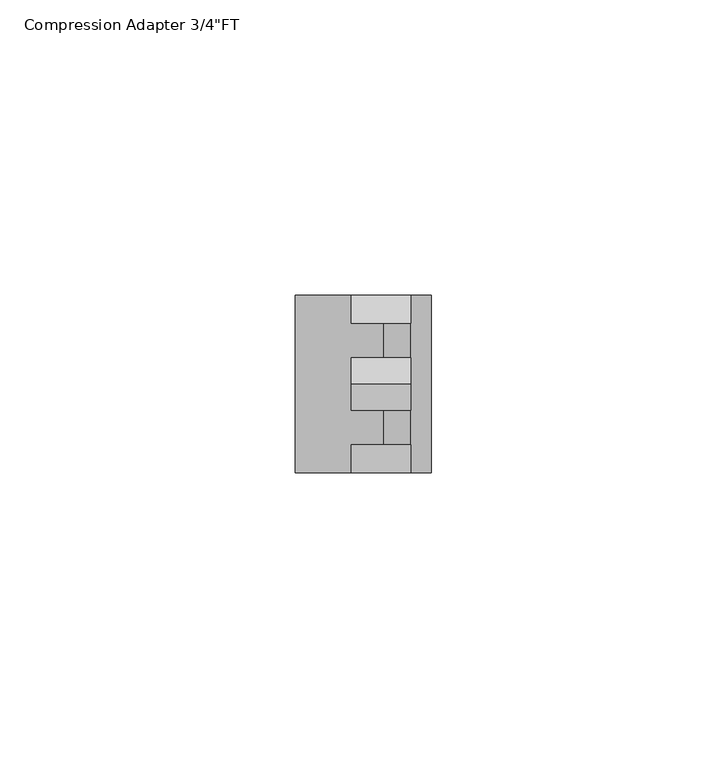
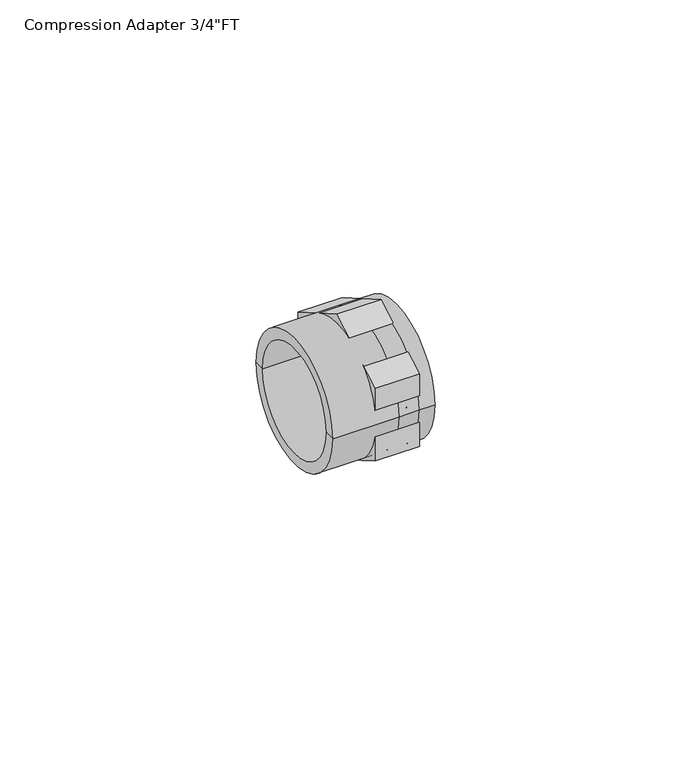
"""IFC4 building model written with IfcOpenShell, lengths in millimetres: pipe fitting geometry."""

from ifc_helpers import new_model, si_unit, point, frame, origin, origin_2d, place, context, project, spatial, polyline, circle_curve, trimmed, segment, composite_curve, outline, extrude, source, transform, mapped, element, save
from ifc_brep_helpers import plane_surface, cylinder_surface, revolved_surface, advanced_brep


def pipe_fitting_a4cde8ab(model_context):
    return source(origin(), model_context, "Body", "SolidModel", [
        advanced_brep(
        [(18.0, -12.5, 0.0), (18.0, 12.5, 0.0), (0.0, 12.5, 0.0), (0.0, -12.5, 0.0), (19.5, -10.0, 0.0), (19.5, 10.0, 0.0), (23.0, -10.0, 0.0), (23.0, 10.0, 0.0), (23.0, -15.0, 0.0), (23.0, 15.0, 0.0), (19.5, -15.0, 0.0), (19.5, 15.0, 0.0), (15.0, -15.0, 0.0), (15.0, 15.0, 0.0), (0.0, -15.0, 0.0), (0.0, 15.0, 0.0)],
        [
            (0, 1, circle_curve(frame((18.0, 0.0, 0.0), z_axis=(1.0, 0.0, 0.0), x_axis=(0.0, 1.0, 0.0)), 12.5)),
            (1, 2),
            (2, 3, circle_curve(frame((0.0, 0.0, 0.0), z_axis=(-1.0, 0.0, 0.0), x_axis=(0.0, 1.0, 0.0)), 12.5)),
            (3, 0),
            (1, 0, circle_curve(frame((18.0, 0.0, 0.0), z_axis=(1.0, 0.0, 0.0), x_axis=(0.0, 1.0, 0.0)), 12.5)),
            (3, 2, circle_curve(frame((0.0, 0.0, 0.0), z_axis=(-1.0, 0.0, 0.0), x_axis=(0.0, 1.0, 0.0)), 12.5)),
            (4, 5, circle_curve(frame((19.5, 0.0, 0.0), z_axis=(1.0, 0.0, 0.0), x_axis=(0.0, 1.0, 0.0)), 10.0)),
            (5, 1),
            (0, 4),
            (5, 4, circle_curve(frame((19.5, 0.0, 0.0), z_axis=(1.0, 0.0, 0.0), x_axis=(0.0, 1.0, 0.0)), 10.0)),
            (6, 7, circle_curve(frame((23.0, 0.0, 0.0), z_axis=(1.0, 0.0, 0.0), x_axis=(0.0, 1.0, 0.0)), 10.0)),
            (7, 5),
            (4, 6),
            (7, 6, circle_curve(frame((23.0, 0.0, 0.0), z_axis=(1.0, 0.0, 0.0), x_axis=(0.0, 1.0, 0.0)), 10.0)),
            (8, 9, circle_curve(frame((23.0, 0.0, 0.0), z_axis=(1.0, 0.0, 0.0), x_axis=(0.0, 1.0, 0.0)), 15.0)),
            (9, 7),
            (6, 8),
            (9, 8, circle_curve(frame((23.0, 0.0, 0.0), z_axis=(1.0, 0.0, 0.0), x_axis=(0.0, 1.0, 0.0)), 15.0)),
            (10, 11, circle_curve(frame((19.5, 0.0, 0.0), z_axis=(1.0, 0.0, 0.0), x_axis=(0.0, 1.0, 0.0)), 15.0)),
            (11, 9),
            (8, 10),
            (11, 10, circle_curve(frame((19.5, 0.0, 0.0), z_axis=(1.0, 0.0, 0.0), x_axis=(0.0, 1.0, 0.0)), 15.0)),
            (12, 13, circle_curve(frame((15.0, 0.0, 0.0), z_axis=(1.0, 0.0, 0.0), x_axis=(0.0, 1.0, 0.0)), 15.0)),
            (13, 11),
            (10, 12),
            (13, 12, circle_curve(frame((15.0, 0.0, 0.0), z_axis=(1.0, 0.0, 0.0), x_axis=(0.0, 1.0, 0.0)), 15.0)),
            (14, 15, circle_curve(frame((0.0, 0.0, 0.0), z_axis=(1.0, 0.0, 0.0), x_axis=(0.0, 1.0, 0.0)), 15.0)),
            (15, 13),
            (12, 14),
            (15, 14, circle_curve(frame((0.0, 0.0, 0.0), z_axis=(1.0, 0.0, 0.0), x_axis=(0.0, 1.0, 0.0)), 15.0)),
            (2, 15),
            (14, 3),
        ],
        [
            revolved_surface(polyline([(0.0, 12.5, 0.0), (18.0, 12.5, 0.0)]), (2001.0, 0.0, 0.0), (-1.0, 0.0, 0.0)),
            revolved_surface(polyline([(18.0, 12.5, 0.0), (19.5, 10.0, 0.0)]), (2001.0, 0.0, 0.0), (-1.0, 0.0, 0.0)),
            revolved_surface(polyline([(19.5, 10.0, 0.0), (23.0, 10.0, 0.0)]), (2001.0, 0.0, 0.0), (-1.0, 0.0, 0.0)),
            plane_surface(frame((23.0, 0.0, 0.0), z_axis=(1.0, 0.0, 0.0), x_axis=(0.0, 1.0, 0.0))),
            cylinder_surface(frame((2001.0, 0.0, 0.0), z_axis=(-1.0, 0.0, 0.0), x_axis=(0.0, 1.0, 0.0)), 15.0),
            plane_surface(frame((0.0, 0.0, 0.0), z_axis=(-1.0, 0.0, 0.0), x_axis=(0.0, 1.0, 0.0))),
        ],
        [
            (0, [[1, 2, 3, 4]]),
            (0, [[5, -4, 6, -2]]),
            (1, [[7, 8, -1, 9]]),
            (1, [[10, -9, -5, -8]]),
            (2, [[11, 12, -7, 13]]),
            (2, [[14, -13, -10, -12]]),
            (3, [[15, 16, -11, 17]]),
            (3, [[18, -17, -14, -16]]),
            (4, [[19, 20, -15, 21]]),
            (4, [[22, -21, -18, -20]]),
            (4, [[23, 24, -19, 25]]),
            (4, [[26, -25, -22, -24]]),
            (4, [[27, 28, -23, 29]]),
            (4, [[30, -29, -26, -28]]),
            (5, [[-3, 31, -27, 32]]),
            (5, [[-6, -32, -30, -31]]),
        ],
    ),
        extrude(outline(polyline([(0.0, 17.3205081), (15.0, 8.660254), (15.0, -8.660254), (0.0, -17.3205081), (-15.0, -8.660254), (-15.0, 8.660254), (0.0, 17.3205081)]), holes=[composite_curve([segment(trimmed(circle_curve(origin_2d(), 12.5), [point((-12.5, 0.0))], [point((12.5, 0.0))], True, "CARTESIAN"), True, "CONTINUOUS"), segment(trimmed(circle_curve(origin_2d(), 12.5), [point((12.5, 0.0))], [point((-12.5, 0.0))], True, "CARTESIAN"), True, "CONTINUOUS")], self_intersect=False)]), frame((9.5, 0.0, 0.0), z_axis=(1.0, 0.0, 0.0), x_axis=(0.0, 1.0, 0.0)), (0.0, 0.0, 1.0), 10.0),
    ])


if __name__ == "__main__":
    model = new_model("IFC4")
    model_context = context("Model", 3, world=origin())
    ifc_project = project(units=[si_unit("LENGTHUNIT", "METRE", prefix="MILLI")], contexts=[model_context])
    site = spatial("IfcSite", under=ifc_project)
    building = spatial("IfcBuilding", under=site)
    placement = place(None, origin())
    pipe_fitting_shape = pipe_fitting_a4cde8ab(model_context)
    element("IfcPipeFitting", 1, ObjectType="Compression Adapter 3/4\"FT : Superpipe Compression Adapter", at=placement, inside=building, context=model_context, shape_type="MappedRepresentation", body=[
        mapped(pipe_fitting_shape, transform((0.0, 0.0, 0.0), x_axis=(1.0, 0.0, 0.0), y_axis=(0.0, 1.0, 0.0), z_axis=(0.0, 0.0, 1.0))),
    ])
    save(model, "model.ifc")
